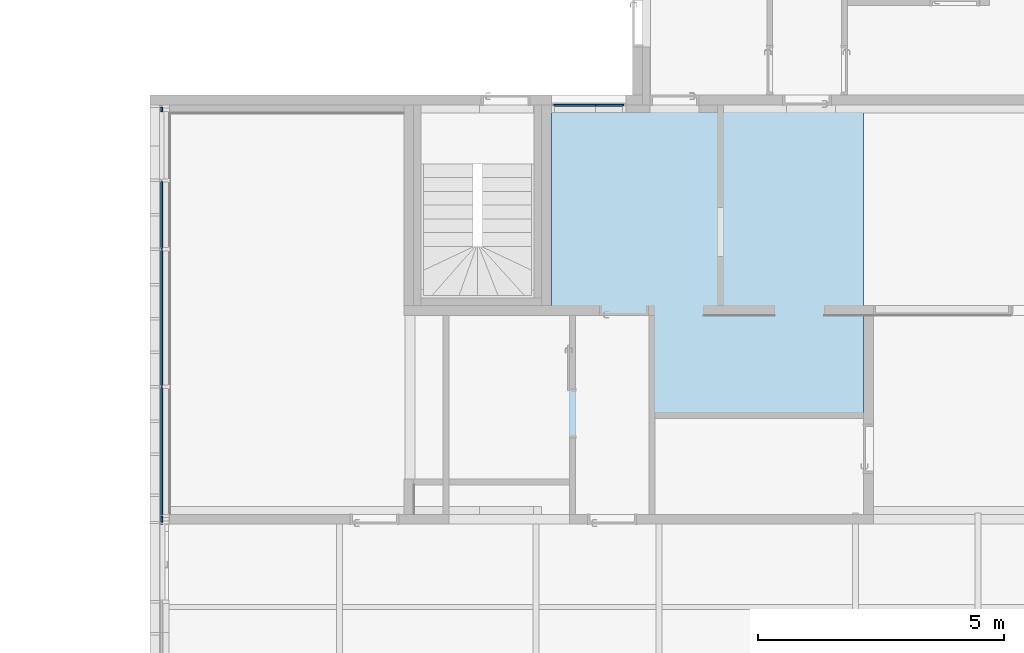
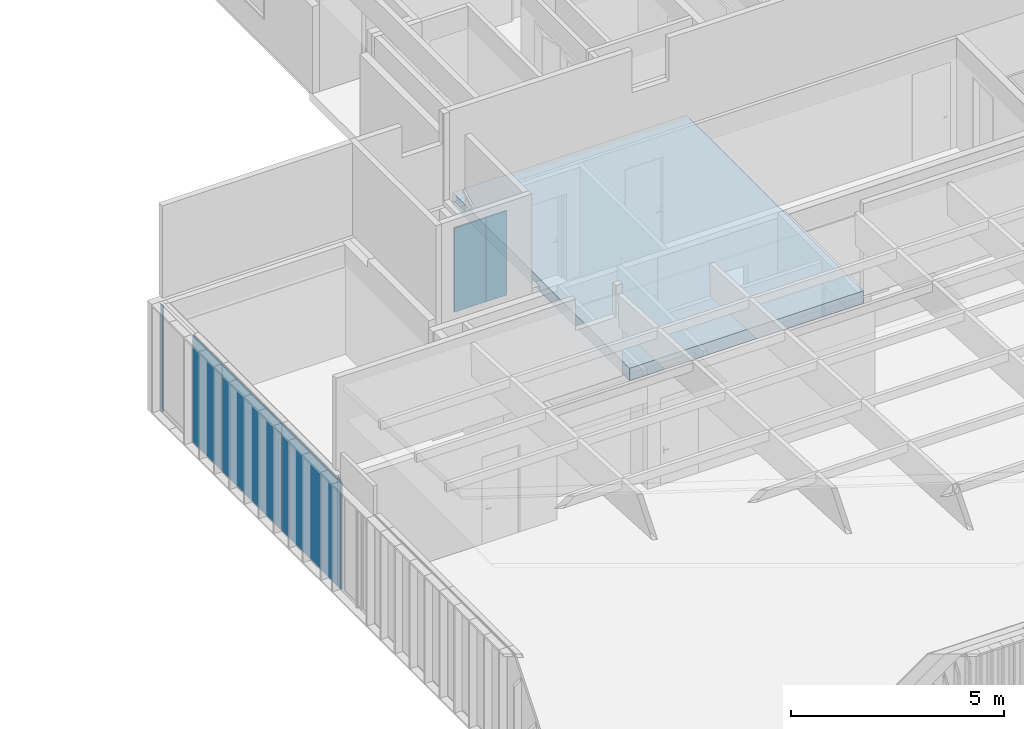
# One storey, part 59 of 240: 7 plates, 1 slab, 4 elements without a shape of their own.
"""IFC2X3 building model written with IfcOpenShell, lengths in centimetres."""

from ifc_helpers import new_model, entity, si_unit, converted_unit, derived_unit, direction, frame, frame_2d, origin, origin_2d_with_axis, place, context, subcontext, project, spatial, rectangle, extrude, source, transform, mapped, material, layer, layer_set, layer_usage, type_object, type_shapes, element, aggregate, save


model = new_model("IFC2X3")

# Units and contexts
model_context = context("Model", 3, precision=0.001, world=origin(), true_north=direction((6.12303176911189e-17, 1.0)))
body_context = subcontext(model_context, "Body", "Model", "MODEL_VIEW")
ifc_project = project(units=[si_unit("LENGTHUNIT", "METRE", prefix="CENTI"), si_unit("AREAUNIT", "SQUARE_METRE"), si_unit("VOLUMEUNIT", "CUBIC_METRE"), converted_unit("PLANEANGLEUNIT", "DEGREE", entity("IfcRatioMeasure", 0.0174532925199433), si_unit("PLANEANGLEUNIT", "RADIAN"), dimensions=[0, 0, 0, 0, 0, 0, 0]), si_unit("MASSUNIT", "GRAM", prefix="KILO"), derived_unit("MASSDENSITYUNIT", [(si_unit("MASSUNIT", "GRAM", prefix="KILO"), 1), (si_unit("LENGTHUNIT", "METRE"), -3)]), si_unit("TIMEUNIT", "SECOND"), si_unit("FREQUENCYUNIT", "HERTZ"), si_unit("THERMODYNAMICTEMPERATUREUNIT", "DEGREE_CELSIUS"), derived_unit("THERMALTRANSMITTANCEUNIT", [(si_unit("MASSUNIT", "GRAM", prefix="KILO"), 1), (si_unit("THERMODYNAMICTEMPERATUREUNIT", "KELVIN"), -1), (si_unit("TIMEUNIT", "SECOND"), -3)]), derived_unit("VOLUMETRICFLOWRATEUNIT", [(si_unit("LENGTHUNIT", "METRE"), 3), (si_unit("TIMEUNIT", "SECOND"), -1)]), si_unit("ELECTRICCURRENTUNIT", "AMPERE"), si_unit("ELECTRICVOLTAGEUNIT", "VOLT"), si_unit("POWERUNIT", "WATT"), si_unit("FORCEUNIT", "NEWTON", prefix="KILO"), si_unit("ILLUMINANCEUNIT", "LUX"), si_unit("LUMINOUSFLUXUNIT", "LUMEN"), si_unit("LUMINOUSINTENSITYUNIT", "CANDELA"), derived_unit("USERDEFINED", [(si_unit("MASSUNIT", "GRAM", prefix="KILO"), -1), (si_unit("LENGTHUNIT", "METRE"), -2), (si_unit("TIMEUNIT", "SECOND"), 3), (si_unit("LUMINOUSFLUXUNIT", "LUMEN"), 1)]), derived_unit("LINEARVELOCITYUNIT", [(si_unit("LENGTHUNIT", "METRE"), 1), (si_unit("TIMEUNIT", "SECOND"), -1)]), si_unit("PRESSUREUNIT", "PASCAL"), derived_unit("USERDEFINED", [(si_unit("LENGTHUNIT", "METRE"), -2), (si_unit("MASSUNIT", "GRAM", prefix="KILO"), 1), (si_unit("TIMEUNIT", "SECOND"), -2)])], contexts=[model_context])

# Site, building, storey
site_placement = place(None, frame((-2781.94577612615, 7442.24238424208, 0.0)))
site = spatial("IfcSite", under=ifc_project, at=site_placement, Name="Default", CompositionType="ELEMENT")
building_placement = place(site_placement, origin())
building = spatial("IfcBuilding", under=site, at=building_placement, CompositionType="ELEMENT")
storey_placement = place(building_placement, origin())
storey = spatial("IfcBuildingStorey", under=building, at=storey_placement, Name="N00 - COO", CompositionType="ELEMENT", Elevation=0.0)

# Curtain wall, plate
curtain_wall_type_1 = type_object("IfcCurtainWallType", Name="Mur-rideau:07 - mur rideau trame 280 cm", PredefinedType="NOTDEFINED")
curtain_wall_1_placement = place(building_placement, origin())
curtain_wall_1 = element("IfcCurtainWall", 1, at=curtain_wall_1_placement, inside=storey, type_object=curtain_wall_type_1, Name="Mur-rideau:07 - mur rideau trame 280 cm", ObjectType="Mur-rideau:07 - mur rideau trame 280 cm")
ifc_material_1 = material(Name="Verre")
ifc_layer_1 = layer(ifc_material_1, 4.0)
ifc_layer_set_1 = layer_set([ifc_layer_1], Name="Panneau système:Vitré")
ifc_layer_usage_1 = layer_usage(ifc_layer_set_1, "AXIS3", "POSITIVE", 0.0)
plate_type_1 = type_object("IfcPlateType", Name="Vitré", PredefinedType="CURTAIN_PANEL", material=ifc_layer_set_1)
shared_shape_1 = source(origin(), body_context, "Body", "SweptSolid", [
    extrude(rectangle(XDim=4.0, YDim=11.7624999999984, at=origin_2d_with_axis()), frame((0.0, 0.0, 0.0), z_axis=(0.0, 0.0, 1.0), x_axis=(0.0, 1.0, 0.0)), (0.0, 0.0, 1.0), 311.27110145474),
])
type_shapes(plate_type_1, [shared_shape_1])
plate_1_placement = place(curtain_wall_1_placement, frame((-11860.6505746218, -4215.50027342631, 4.11874999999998), z_axis=(0.0, 0.0, 1.0), x_axis=(0.0, 1.0, 0.0)))
plate_1 = element("IfcPlate", 2, at=plate_1_placement, type_object=plate_type_1, material=ifc_layer_usage_1, Name="Panneau système:Vitré", ObjectType="Panneau système:Vitré", context=body_context, shape_type="MappedRepresentation", body=[
    mapped(shared_shape_1, transform((0.0, 0.0, 0.0), scale=1.0)),
])
aggregate(curtain_wall_1, [plate_1])

# Curtain wall, plates
curtain_wall_type_2 = type_object("IfcCurtainWallType", Name="Mur-rideau:07 - mur rideau trame 90 cm", PredefinedType="NOTDEFINED")
curtain_wall_2_placement = place(building_placement, origin())
curtain_wall_2 = element("IfcCurtainWall", 3, at=curtain_wall_2_placement, inside=storey, type_object=curtain_wall_type_2, Name="Mur-rideau:07 - mur rideau trame 90 cm", ObjectType="Mur-rideau:07 - mur rideau trame 90 cm")
ifc_layer_usage_2 = layer_usage(ifc_layer_set_1, "AXIS3", "POSITIVE", 0.0)
plate_type_2 = type_object("IfcPlateType", Name="Vitré", PredefinedType="CURTAIN_PANEL", material=ifc_layer_set_1)
shared_shape_2 = source(origin(), body_context, "Body", "SweptSolid", [
    extrude(rectangle(XDim=4.0, YDim=85.881250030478, at=origin_2d_with_axis()), frame((0.0, 0.0, 0.0), z_axis=(0.0, 0.0, 1.0), x_axis=(0.0, 1.0, 0.0)), (0.0, 0.0, 1.0), 241.7625),
])
type_shapes(plate_type_2, [shared_shape_2])
plate_2_placement = place(curtain_wall_2_placement, frame((-11019.8234329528, -3372.52180651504, 4.11874999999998)))
plate_2 = element("IfcPlate", 4, at=plate_2_placement, type_object=plate_type_2, material=ifc_layer_usage_2, Name="Panneau système:Vitré", ObjectType="Panneau système:Vitré", context=body_context, shape_type="MappedRepresentation", body=[
    mapped(shared_shape_2, transform((0.0, 0.0, 0.0), scale=1.0)),
])
ifc_layer_usage_3 = layer_usage(ifc_layer_set_1, "AXIS3", "POSITIVE", 0.0)
plate_type_3 = type_object("IfcPlateType", Name="Vitré", PredefinedType="CURTAIN_PANEL", material=ifc_layer_set_1)
shared_shape_3 = source(origin(), body_context, "Body", "SweptSolid", [
    extrude(rectangle(XDim=4.0, YDim=57.1510102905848, at=origin_2d_with_axis()), frame((0.0, 0.0, 0.0), z_axis=(0.0, 0.0, 1.0), x_axis=(0.0, 1.0, 0.0)), (0.0, 0.0, 1.0), 241.7625),
])
type_shapes(plate_type_3, [shared_shape_3])
plate_3_placement = place(curtain_wall_2_placement, frame((-10948.3073027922, -3372.52180651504, 4.11874999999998)))
plate_3 = element("IfcPlate", 5, at=plate_3_placement, type_object=plate_type_3, material=ifc_layer_usage_3, Name="Panneau système:Vitré", ObjectType="Panneau système:Vitré", context=body_context, shape_type="MappedRepresentation", body=[
    mapped(shared_shape_3, transform((0.0, 0.0, 0.0), scale=1.0)),
])
aggregate(curtain_wall_2, [plate_2, plate_3])

curtain_wall_3_placement = place(building_placement, origin())
curtain_wall_3 = element("IfcCurtainWall", 6, at=curtain_wall_3_placement, inside=storey, type_object=curtain_wall_type_1, Name="Mur-rideau:07 - mur rideau trame 280 cm", ObjectType="Mur-rideau:07 - mur rideau trame 280 cm")
ifc_layer_usage_4 = layer_usage(ifc_layer_set_1, "AXIS3", "POSITIVE", 0.0)
plate_type_4 = type_object("IfcPlateType", Name="Vitré", PredefinedType="CURTAIN_PANEL", material=ifc_layer_set_1)
shared_shape_4 = source(origin(), body_context, "Body", "SweptSolid", [
    extrude(rectangle(XDim=4.0, YDim=279.13125, at=origin_2d_with_axis()), frame((0.0, 0.0, 0.0), z_axis=(0.0, 0.0, 1.0), x_axis=(0.0, 1.0, 0.0)), (0.0, 0.0, 1.0), 304.762500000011),
])
type_shapes(plate_type_4, [shared_shape_4])
plate_4_placement = place(curtain_wall_3_placement, frame((-11860.1844031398, -4086.43464844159, 4.11874999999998), z_axis=(0.0, 0.0, 1.0), x_axis=(0.0, 1.0, 0.0)))
plate_4 = element("IfcPlate", 7, at=plate_4_placement, type_object=plate_type_4, material=ifc_layer_usage_4, Name="Panneau système:Vitré", ObjectType="Panneau système:Vitré", context=body_context, shape_type="MappedRepresentation", body=[
    mapped(shared_shape_4, transform((0.0, 0.0, 0.0), scale=1.0)),
])
ifc_layer_usage_5 = layer_usage(ifc_layer_set_1, "AXIS3", "POSITIVE", 0.0)
plate_type_5 = type_object("IfcPlateType", Name="Vitré", PredefinedType="CURTAIN_PANEL", material=ifc_layer_set_1)
shared_shape_5 = source(origin(), body_context, "Body", "SweptSolid", [
    extrude(rectangle(XDim=4.0, YDim=278.262499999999, at=origin_2d_with_axis()), frame((0.0, 0.0, 0.0), z_axis=(0.0, 0.0, 1.0), x_axis=(0.0, 1.0, 0.0)), (0.0, 0.0, 1.0), 304.762500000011),
])
type_shapes(plate_type_5, [shared_shape_5])
plate_5_placement = place(curtain_wall_3_placement, frame((-11860.1844031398, -3806.00027342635, 4.11874999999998), z_axis=(0.0, 0.0, 1.0), x_axis=(0.0, 1.0, 0.0)))
plate_5 = element("IfcPlate", 8, at=plate_5_placement, type_object=plate_type_5, material=ifc_layer_usage_5, Name="Panneau système:Vitré", ObjectType="Panneau système:Vitré", context=body_context, shape_type="MappedRepresentation", body=[
    mapped(shared_shape_5, transform((0.0, 0.0, 0.0), scale=1.0)),
])
ifc_layer_usage_6 = layer_usage(ifc_layer_set_1, "AXIS3", "POSITIVE", 0.0)
plate_type_6 = type_object("IfcPlateType", Name="Vitré", PredefinedType="CURTAIN_PANEL", material=ifc_layer_set_1)
shared_shape_6 = source(origin(), body_context, "Body", "SweptSolid", [
    extrude(rectangle(XDim=4.0, YDim=138.2625, at=origin_2d_with_axis()), frame((0.0, 0.0, 0.0), z_axis=(0.0, 0.0, 1.0), x_axis=(0.0, 1.0, 0.0)), (0.0, 0.0, 1.0), 304.762500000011),
])
type_shapes(plate_type_6, [shared_shape_6])
plate_6_placement = place(curtain_wall_3_placement, frame((-11860.1844031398, -3596.00027342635, 4.11874999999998), z_axis=(0.0, 0.0, 1.0), x_axis=(0.0, 1.0, 0.0)))
plate_6 = element("IfcPlate", 9, at=plate_6_placement, type_object=plate_type_6, material=ifc_layer_usage_6, Name="Panneau système:Vitré", ObjectType="Panneau système:Vitré", context=body_context, shape_type="MappedRepresentation", body=[
    mapped(shared_shape_6, transform((0.0, 0.0, 0.0), scale=1.0)),
])
ifc_layer_usage_7 = layer_usage(ifc_layer_set_1, "AXIS3", "POSITIVE", 0.0)
plate_type_7 = type_object("IfcPlateType", Name="Vitré", PredefinedType="CURTAIN_PANEL", material=ifc_layer_set_1)
shared_shape_7 = source(origin(), body_context, "Body", "SweptSolid", [
    extrude(rectangle(XDim=4.0, YDim=9.35971691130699, at=origin_2d_with_axis()), frame((0.0, 0.0, 0.0), z_axis=(0.0, 0.0, 1.0), x_axis=(0.0, 1.0, 0.0)), (0.0, 0.0, 1.0), 304.762500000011),
])
type_shapes(plate_type_7, [shared_shape_7])
plate_7_placement = place(curtain_wall_3_placement, frame((-11860.1844031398, -3381.32041497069, 4.11874999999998), z_axis=(0.0, 0.0, 1.0), x_axis=(0.0, 1.0, 0.0)))
plate_7 = element("IfcPlate", 10, at=plate_7_placement, type_object=plate_type_7, material=ifc_layer_usage_7, Name="Panneau système:Vitré", ObjectType="Panneau système:Vitré", context=body_context, shape_type="MappedRepresentation", body=[
    mapped(shared_shape_7, transform((0.0, 0.0, 0.0), scale=1.0)),
])
aggregate(curtain_wall_3, [plate_4, plate_5, plate_6, plate_7])

# Roof, slab
roof_placement = place(storey_placement, frame((-11066.882807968, -4205.50027342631, 313.0)))
roof = element("IfcRoof", 11, at=roof_placement, inside=storey, Name="Toit de base:03 - Dalle 20 cm + isolant", ObjectType="Toit de base:03 - Dalle 20 cm + isolant", ShapeType="NOTDEFINED")
ifc_material_2 = material(Name="00 - Isolant")
ifc_layer_2 = layer(ifc_material_2, 16.0)
ifc_material_3 = material(Name="01 - Maçonnerie")
ifc_layer_3 = layer(ifc_material_3, 20.0)
ifc_layer_set_2 = layer_set([ifc_layer_2, ifc_layer_3], Name="Toit de base:03 - Dalle 20 cm + isolant")
slab_placement = place(roof_placement, origin())
slab = element("IfcSlab", 12, at=slab_placement, material=ifc_layer_set_2, Name="Toit de base:03 - Dalle 20 cm + isolant", ObjectType="Toit de base:03 - Dalle 20 cm + isolant", PredefinedType="ROOF", context=body_context, shape_type="SweptSolid", body=[
    extrude(rectangle(XDim=832.978466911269, YDim=634.91806986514, at=frame_2d((0.0, 1.08002495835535e-12), x_axis=(0.0, -1.0))), frame((317.45903493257, 416.489233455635, 0.0)), (0.0, 0.0, 1.0), 36.0),
])
aggregate(roof, [slab])

save(model, "model.ifc")
